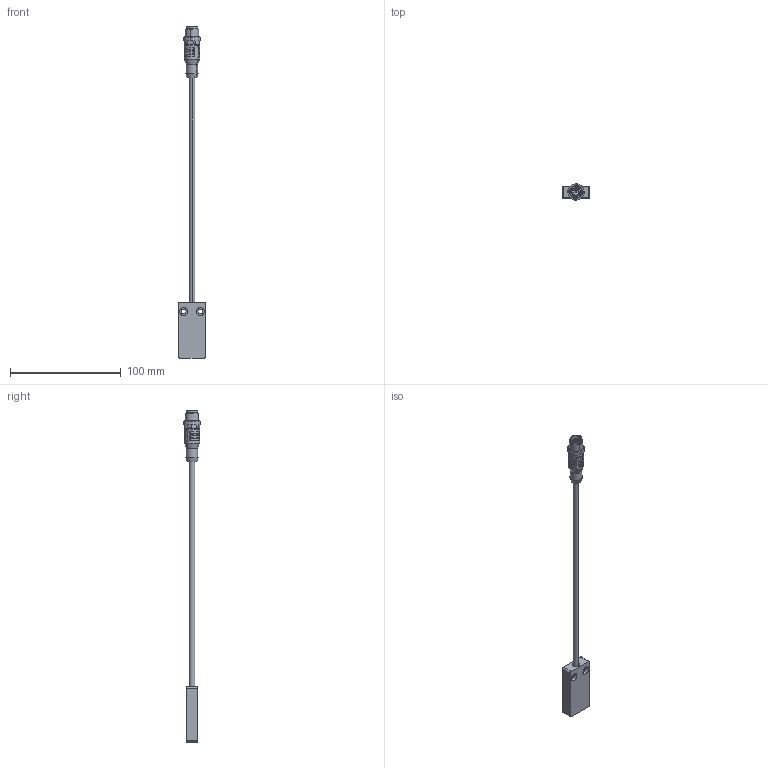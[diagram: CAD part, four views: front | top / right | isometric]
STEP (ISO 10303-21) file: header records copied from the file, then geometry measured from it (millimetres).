
FILE_DESCRIPTION((''),'2;1');
FILE_NAME('ASM0001_ASM','2025-01-08T08:39:20',('Rudolf.Poettker'),(''),'CREO PARAMETRIC BY PTC INC, 2022124','CREO PARAMETRIC BY PTC INC, 2022124','');
FILE_SCHEMA(('AUTOMOTIVE_DESIGN { 1 0 10303 214 1 1 1 1 }'));
Length unit declared in the file: millimetre
Products named in the file (3): 6490650381_SW0001; 4139100185; ASM0001_ASM
Assembly tree (2 placements, depth 2):
  ASM0001_ASM
    6490650381_SW0001
    4139100185
Bounding box: 25 x 14.98 x 300 mm (x, y, z)
Volume: 21338.5 mm3; surface area: 10448.7 mm2
Topology: 2 solids, 2 shells, 381 faces, 938 edges, 585 vertices
Faces by surface type: plane 121, cylinder 107, extrusion 66, torus 29, bspline 24, cone 18, sphere 16
Entity records: 20115 total; most frequent: CARTESIAN_POINT 7229, ORIENTED_EDGE 1840, DIRECTION 1679, PRESENTATION_STYLE_ASSIGNMENT 934, STYLED_ITEM 933, CURVE_STYLE 931, EDGE_CURVE 920, AXIS2_PLACEMENT_3D 610
